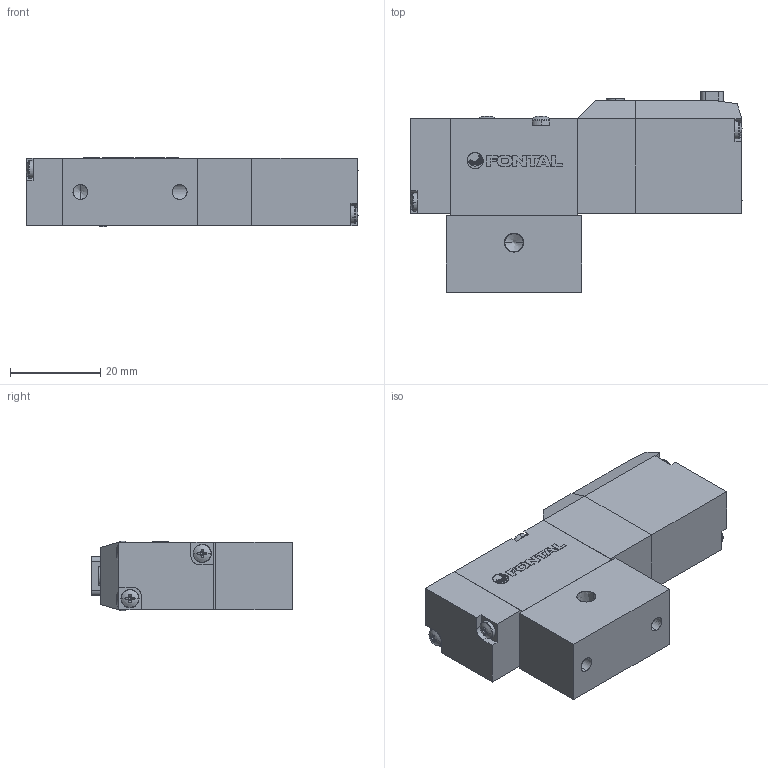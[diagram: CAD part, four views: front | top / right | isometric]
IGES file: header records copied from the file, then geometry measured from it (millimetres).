
Start section: SolidWorks IGES file using analytic representation for surfaces
Global section: file name: D:\Custom\3D繪製\PC\PC5\PCS245#-M5-#-L-#.IGS,1; native system: 5HSolidWorks 2014; preprocessor: SolidWorks 2014; author: Chieh_Lu; date: 150729.232333; units: millimetre
Bounding box: 73.64 x 44.5 x 15.4 mm (x, y, z)
Surface area: 13755.5 mm2 (no closed solid volume)
Topology: 0 solids, 0 shells, 484 faces, 4404 edges, 4378 vertices
Faces by surface type: bspline 295, revolution 189
